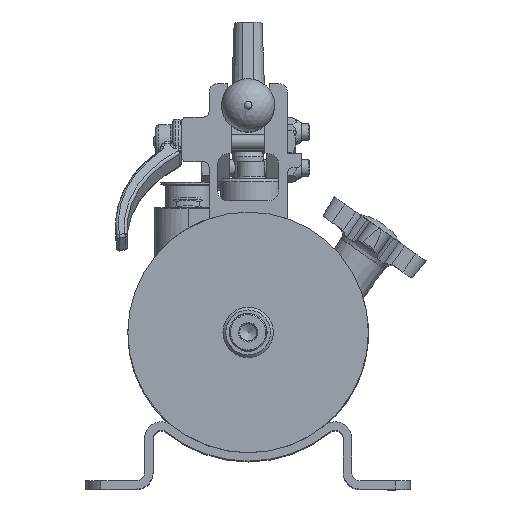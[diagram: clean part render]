
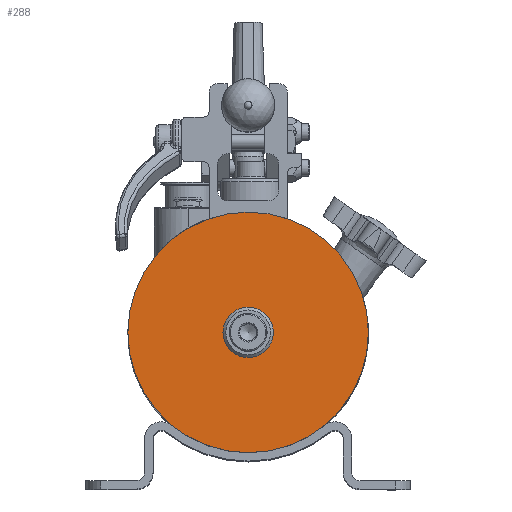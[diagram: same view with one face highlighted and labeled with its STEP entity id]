
A CAD part, top view. The second image highlights one B-rep face of the part: STEP entity #288.
In plain terms, the highlighted planar face has unit normal (0, 0, 1) as drawn and (0, 0, -1) by its records, which use the part's own axes.
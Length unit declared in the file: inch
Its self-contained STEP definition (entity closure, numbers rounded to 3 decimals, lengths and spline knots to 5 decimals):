
#225=CARTESIAN_POINT('',(0.34375,0.,0.0));
#226=VERTEX_POINT('',#225);
#227=CARTESIAN_POINT('',(0.0,0.0,0.0));
#228=DIRECTION('',(0.0,0.0,1.0));
#229=DIRECTION('',(-1.0,0.0,0.0));
#230=AXIS2_PLACEMENT_3D('',#227,#228,#229);
#231=CIRCLE('',#230,0.34375);
#232=EDGE_CURVE('',#226,#226,#231,.T.);
#253=CARTESIAN_POINT('',(2.6875,0.,0.0));
#254=VERTEX_POINT('',#253);
#255=CARTESIAN_POINT('',(0.0,0.0,0.0));
#256=DIRECTION('',(0.0,0.0,-1.0));
#257=DIRECTION('',(-1.0,0.0,0.0));
#258=AXIS2_PLACEMENT_3D('',#255,#256,#257);
#259=CIRCLE('',#258,2.6875);
#260=EDGE_CURVE('',#254,#254,#259,.T.);
#277=CARTESIAN_POINT('',(0.0,0.0,0.0));
#278=DIRECTION('',(0.0,0.0,-1.0));
#279=DIRECTION('',(-1.0,0.0,0.0));
#280=AXIS2_PLACEMENT_3D('',#277,#278,#279);
#281=PLANE('',#280);
#282=ORIENTED_EDGE('',*,*,#260,.T.);
#283=EDGE_LOOP('',(#282));
#284=FACE_OUTER_BOUND('',#283,.T.);
#285=ORIENTED_EDGE('',*,*,#232,.T.);
#286=EDGE_LOOP('',(#285));
#287=FACE_BOUND('',#286,.T.);
#288=ADVANCED_FACE('',(#284,#287),#281,.T.);
